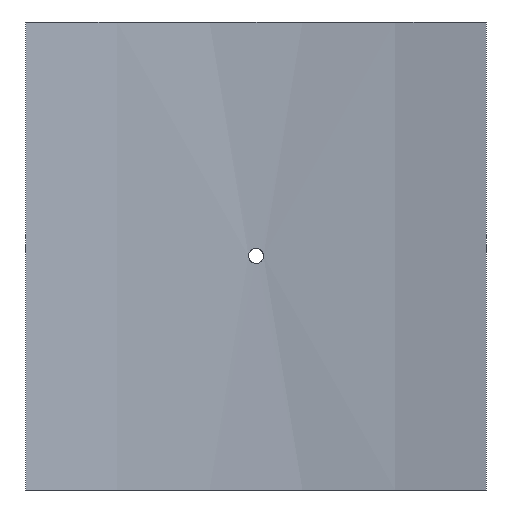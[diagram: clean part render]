
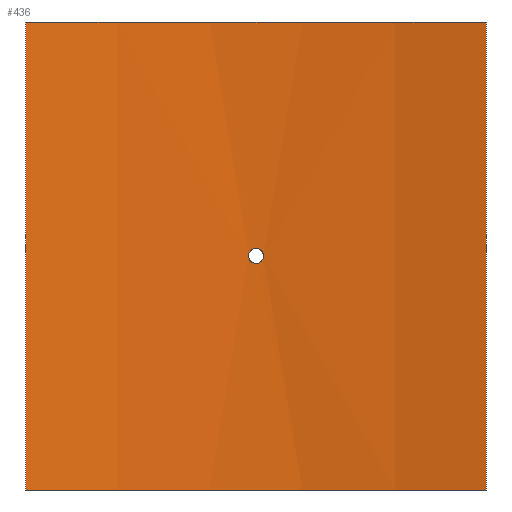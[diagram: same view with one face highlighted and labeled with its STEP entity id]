
A CAD part, front view. The second image highlights one B-rep face of the part: STEP entity #436.
In plain terms, the highlighted cylindrical face has radius 600 mm (diameter 1200 mm), a partial arc.
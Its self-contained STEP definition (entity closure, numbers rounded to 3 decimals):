
#26=FACE_BOUND('',#162,.T.);
#42=B_SPLINE_CURVE_WITH_KNOTS('',3,(#758,#759,#760,#761,#762,#763,#764,
#765,#766,#767,#768,#769,#770,#771,#772,#773,#774,#775,#776,#777,#778,#779,
#780,#781,#782,#783,#784,#785,#786,#787,#788,#789,#790,#791),
 .UNSPECIFIED.,.T.,.F.,(4,2,2,2,2,2,2,2,2,2,2,2,2,2,2,2,4),(0.,0.181,
0.362,0.542,0.723,0.904,
1.085,1.266,1.446,1.627,1.808,
1.989,2.17,2.351,2.531,2.712,
2.893),.UNSPECIFIED.);
#66=LINE('',#1035,#85);
#67=LINE('',#1038,#86);
#85=VECTOR('',#636,10.);
#86=VECTOR('',#639,10.);
#99=CYLINDRICAL_SURFACE('',#511,600.);
#124=FACE_OUTER_BOUND('',#161,.T.);
#161=EDGE_LOOP('',(#390,#391,#392,#393));
#162=EDGE_LOOP('',(#394));
#194=CIRCLE('',#510,600.);
#195=CIRCLE('',#512,600.);
#210=VERTEX_POINT('',#756);
#233=VERTEX_POINT('',#1028);
#234=VERTEX_POINT('',#1030);
#235=VERTEX_POINT('',#1034);
#236=VERTEX_POINT('',#1036);
#256=EDGE_CURVE('',#210,#210,#42,.T.);
#288=EDGE_CURVE('',#233,#234,#194,.T.);
#290=EDGE_CURVE('',#235,#233,#66,.T.);
#291=EDGE_CURVE('',#236,#235,#195,.T.);
#292=EDGE_CURVE('',#236,#234,#67,.T.);
#390=ORIENTED_EDGE('',*,*,#290,.F.);
#391=ORIENTED_EDGE('',*,*,#291,.F.);
#392=ORIENTED_EDGE('',*,*,#292,.T.);
#393=ORIENTED_EDGE('',*,*,#288,.F.);
#394=ORIENTED_EDGE('',*,*,#256,.T.);
#436=ADVANCED_FACE('',(#124,#26),#99,.F.);
#510=AXIS2_PLACEMENT_3D('',#1031,#631,#632);
#511=AXIS2_PLACEMENT_3D('',#1033,#634,#635);
#512=AXIS2_PLACEMENT_3D('',#1037,#637,#638);
#631=DIRECTION('center_axis',(0.,0.,1.));
#632=DIRECTION('ref_axis',(0.246,0.969,0.));
#634=DIRECTION('center_axis',(0.,0.,1.));
#635=DIRECTION('ref_axis',(0.246,0.969,0.));
#636=DIRECTION('',(0.,0.,-1.));
#637=DIRECTION('center_axis',(0.,0.,-1.));
#638=DIRECTION('ref_axis',(0.246,0.969,0.));
#639=DIRECTION('',(0.,0.,-1.));
#756=CARTESIAN_POINT('',(4.8,599.981,0.));
#758=CARTESIAN_POINT('Ctrl Pts',(4.8,599.981,0.));
#759=CARTESIAN_POINT('Ctrl Pts',(4.8,599.981,-0.603));
#760=CARTESIAN_POINT('Ctrl Pts',(4.68,599.982,-1.246));
#761=CARTESIAN_POINT('Ctrl Pts',(4.19,599.985,-2.428));
#762=CARTESIAN_POINT('Ctrl Pts',(3.82,599.988,-2.968));
#763=CARTESIAN_POINT('Ctrl Pts',(2.968,599.993,-3.82));
#764=CARTESIAN_POINT('Ctrl Pts',(2.428,599.995,-4.19));
#765=CARTESIAN_POINT('Ctrl Pts',(1.246,599.999,-4.68));
#766=CARTESIAN_POINT('Ctrl Pts',(0.603,600.,-4.8));
#767=CARTESIAN_POINT('Ctrl Pts',(-0.603,600.,-4.8));
#768=CARTESIAN_POINT('Ctrl Pts',(-1.246,599.999,-4.68));
#769=CARTESIAN_POINT('Ctrl Pts',(-2.428,599.995,-4.19));
#770=CARTESIAN_POINT('Ctrl Pts',(-2.968,599.993,-3.82));
#771=CARTESIAN_POINT('Ctrl Pts',(-3.82,599.988,-2.968));
#772=CARTESIAN_POINT('Ctrl Pts',(-4.19,599.985,-2.428));
#773=CARTESIAN_POINT('Ctrl Pts',(-4.68,599.982,-1.246));
#774=CARTESIAN_POINT('Ctrl Pts',(-4.8,599.981,-0.603));
#775=CARTESIAN_POINT('Ctrl Pts',(-4.8,599.981,0.603));
#776=CARTESIAN_POINT('Ctrl Pts',(-4.68,599.982,1.246));
#777=CARTESIAN_POINT('Ctrl Pts',(-4.19,599.985,2.428));
#778=CARTESIAN_POINT('Ctrl Pts',(-3.82,599.988,2.968));
#779=CARTESIAN_POINT('Ctrl Pts',(-2.968,599.993,3.82));
#780=CARTESIAN_POINT('Ctrl Pts',(-2.428,599.995,4.19));
#781=CARTESIAN_POINT('Ctrl Pts',(-1.246,599.999,4.68));
#782=CARTESIAN_POINT('Ctrl Pts',(-0.603,600.,4.8));
#783=CARTESIAN_POINT('Ctrl Pts',(0.603,600.,4.8));
#784=CARTESIAN_POINT('Ctrl Pts',(1.246,599.999,4.68));
#785=CARTESIAN_POINT('Ctrl Pts',(2.428,599.995,4.19));
#786=CARTESIAN_POINT('Ctrl Pts',(2.968,599.993,3.82));
#787=CARTESIAN_POINT('Ctrl Pts',(3.82,599.988,2.968));
#788=CARTESIAN_POINT('Ctrl Pts',(4.19,599.985,2.428));
#789=CARTESIAN_POINT('Ctrl Pts',(4.68,599.982,1.246));
#790=CARTESIAN_POINT('Ctrl Pts',(4.8,599.981,0.603));
#791=CARTESIAN_POINT('Ctrl Pts',(4.8,599.981,0.));
#1028=CARTESIAN_POINT('',(147.5,581.587,-150.));
#1030=CARTESIAN_POINT('',(-147.5,581.587,-150.));
#1031=CARTESIAN_POINT('Origin',(0.,0.,
-150.));
#1033=CARTESIAN_POINT('Origin',(0.,0.,
0.));
#1034=CARTESIAN_POINT('',(147.5,581.587,150.));
#1035=CARTESIAN_POINT('',(147.5,581.587,0.));
#1036=CARTESIAN_POINT('',(-147.5,581.587,150.));
#1037=CARTESIAN_POINT('Origin',(0.,0.,
150.));
#1038=CARTESIAN_POINT('',(-147.5,581.587,0.));
